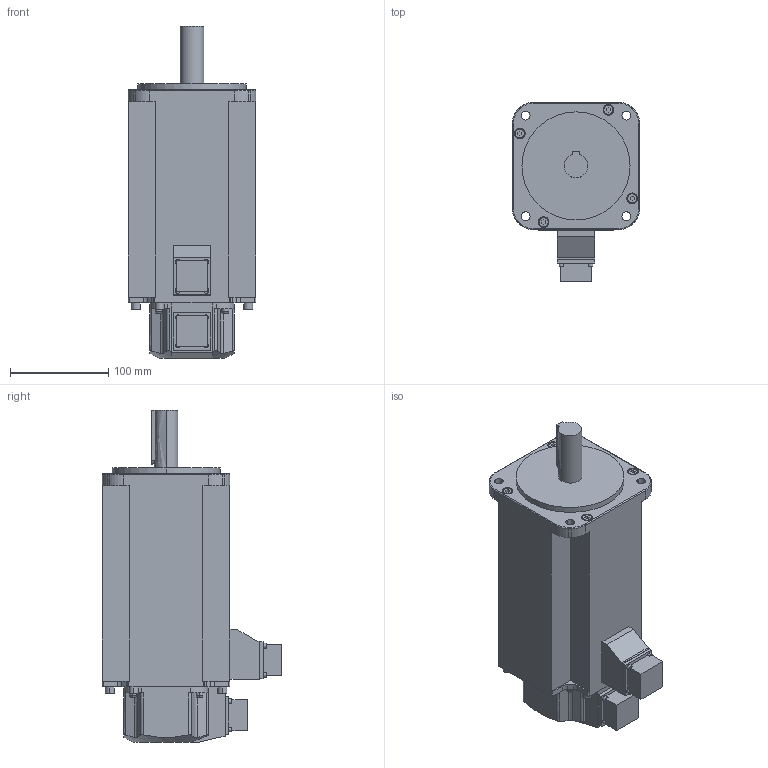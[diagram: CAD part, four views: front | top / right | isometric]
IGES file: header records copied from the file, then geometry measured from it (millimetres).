
Start section:  PTC IGES file: rsms_40atk3.igs
Global section: file name: rsms_40atk3.igs; native system: Pro/ENGINEER by Parametric Technology Corporation; preprocessor: 2004440; author: Administrator; organization: Unknown; date: 070829.195324; units: millimetre
Bounding box: 130 x 182.7 x 338 mm (x, y, z)
Volume: 3624349.6 mm3; surface area: 185304.6 mm2
Topology: 1 solids, 1 shells, 290 faces, 744 edges, 488 vertices
Faces by surface type: bspline 164, revolution 126
